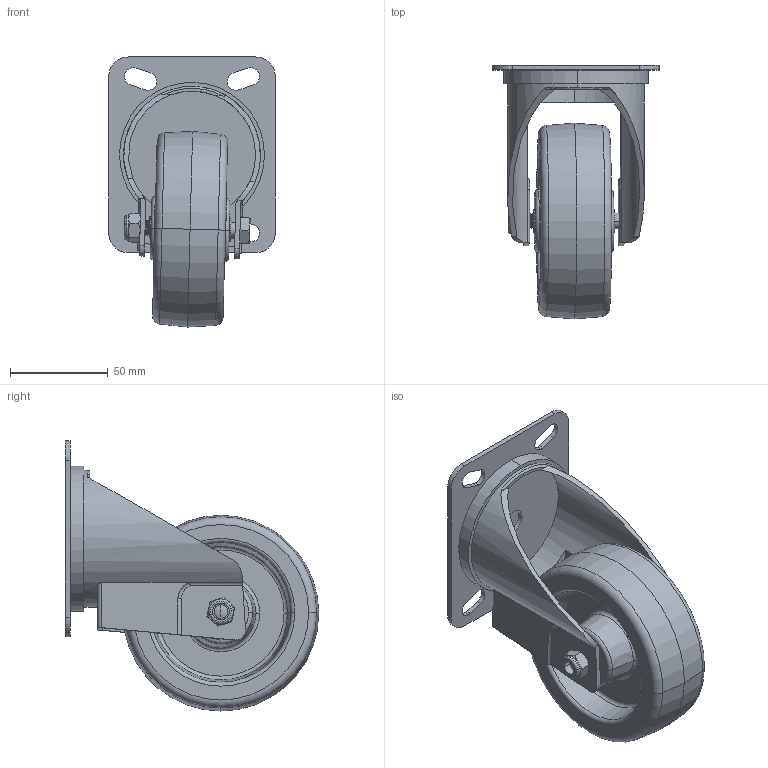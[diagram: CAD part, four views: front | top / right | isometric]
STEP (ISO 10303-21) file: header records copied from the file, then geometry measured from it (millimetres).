
FILE_DESCRIPTION (( 'STEP AP214' ), '1' );
FILE_NAME ('MSN100-SP.step', '2024-01-21T22:19:24', ( '' ), ( '' ), 'SwSTEP 2.0', 'SolidWorks 2022', '' );
FILE_SCHEMA (( 'AUTOMOTIVE_DESIGN' ));
Length unit declared in the file: millimetre
Products named in the file (7): MSN100; SP12-8-41-SS; MSN100-SP; 100X85 ANGLED; M8Nyloc-SS; M8x55-SS
Assembly tree (6 placements, depth 2):
  MSN100-SP
    MSN100-SP
    SP12-8-41-SS
    M8x55-SS
    M8Nyloc-SS
    MSN100
    100X85 ANGLED
Bounding box: 85 x 129.5 x 137.97 mm (x, y, z)
Volume: 251658.4 mm3; surface area: 90949.9 mm2
Topology: 6 solids, 6 shells, 437 faces, 1137 edges, 744 vertices
Faces by surface type: plane 162, cylinder 106, bspline 104, cone 32, torus 31, sphere 2
Entity records: 23526 total; most frequent: CARTESIAN_POINT 12813, ORIENTED_EDGE 2274, DIRECTION 1660, EDGE_CURVE 1137, VERTEX_POINT 744, LINE 570, VECTOR 570, AXIS2_PLACEMENT_3D 545
